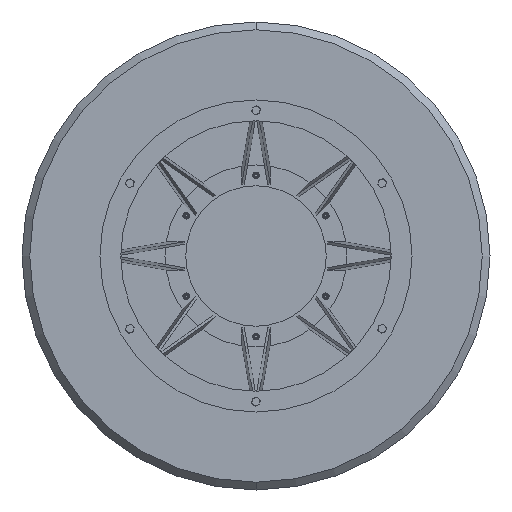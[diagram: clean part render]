
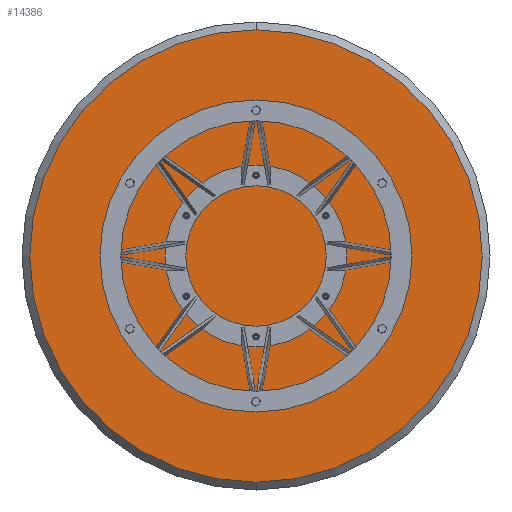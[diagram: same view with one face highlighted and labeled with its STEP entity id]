
A CAD part, front view. The second image highlights one B-rep face of the part: STEP entity #14386.
In plain terms, the highlighted planar face has unit normal (0, -1, 0).
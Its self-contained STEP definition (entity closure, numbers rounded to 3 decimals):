
#251 = EDGE_CURVE ( 'NONE', #4303, #13678, #5175, .T. ) ;
#264 = VERTEX_POINT ( 'NONE', #14561 ) ;
#362 = VERTEX_POINT ( 'NONE', #4470 ) ;
#475 = EDGE_CURVE ( 'NONE', #264, #13738, #3245, .T. ) ;
#630 = VERTEX_POINT ( 'NONE', #14034 ) ;
#871 = DIRECTION ( 'NONE',  ( 0., 0., -1. ) ) ;
#976 = AXIS2_PLACEMENT_3D ( 'NONE', #9940, #7528, #8630 ) ;
#1001 = DIRECTION ( 'NONE',  ( 0., -1., 0. ) ) ;
#1046 = AXIS2_PLACEMENT_3D ( 'NONE', #6543, #6460, #10503 ) ;
#1179 = EDGE_LOOP ( 'NONE', ( #3276, #9830 ) ) ;
#1286 = VERTEX_POINT ( 'NONE', #15716 ) ;
#1381 = CARTESIAN_POINT ( 'NONE',  ( 0., 0., 160. ) ) ;
#1454 = CARTESIAN_POINT ( 'NONE',  ( 134.234, 0., 77.5 ) ) ;
#1568 = VERTEX_POINT ( 'NONE', #1775 ) ;
#1679 = EDGE_LOOP ( 'NONE', ( #11823, #8889 ) ) ;
#1775 = CARTESIAN_POINT ( 'NONE',  ( -134.234, 0., -82.5 ) ) ;
#1911 = CIRCLE ( 'NONE', #14303, 5. ) ;
#2232 = DIRECTION ( 'NONE',  ( 0., -1., 0. ) ) ;
#2377 = CIRCLE ( 'NONE', #15027, 5. ) ;
#2509 = CARTESIAN_POINT ( 'NONE',  ( -134.234, 0., -77.5 ) ) ;
#2599 = ORIENTED_EDGE ( 'NONE', *, *, #10734, .F. ) ;
#2712 = EDGE_CURVE ( 'NONE', #13678, #4303, #4093, .T. ) ;
#2834 = DIRECTION ( 'NONE',  ( 0., -1., 0. ) ) ;
#2839 = AXIS2_PLACEMENT_3D ( 'NONE', #3525, #2232, #13732 ) ;
#2921 = AXIS2_PLACEMENT_3D ( 'NONE', #9928, #8619, #12603 ) ;
#3070 = EDGE_CURVE ( 'NONE', #630, #3395, #1911, .T. ) ;
#3195 = EDGE_LOOP ( 'NONE', ( #3295, #5802 ) ) ;
#3245 = CIRCLE ( 'NONE', #16769, 435. ) ;
#3255 = DIRECTION ( 'NONE',  ( 0., 0., 1. ) ) ;
#3276 = ORIENTED_EDGE ( 'NONE', *, *, #13713, .F. ) ;
#3295 = ORIENTED_EDGE ( 'NONE', *, *, #11552, .F. ) ;
#3316 = CARTESIAN_POINT ( 'NONE',  ( 0., 0., 155. ) ) ;
#3395 = VERTEX_POINT ( 'NONE', #3736 ) ;
#3525 = CARTESIAN_POINT ( 'NONE',  ( 0., 0., 155. ) ) ;
#3668 = DIRECTION ( 'NONE',  ( 0., 0., -1. ) ) ;
#3693 = FACE_BOUND ( 'NONE', #8015, .T. ) ;
#3700 = CIRCLE ( 'NONE', #16329, 5. ) ;
#3727 = CIRCLE ( 'NONE', #976, 5. ) ;
#3736 = CARTESIAN_POINT ( 'NONE',  ( 134.234, 0., 72.5 ) ) ;
#3940 = FACE_BOUND ( 'NONE', #13718, .T. ) ;
#4093 = CIRCLE ( 'NONE', #11567, 5. ) ;
#4303 = VERTEX_POINT ( 'NONE', #10703 ) ;
#4470 = CARTESIAN_POINT ( 'NONE',  ( -134.234, 0., 82.5 ) ) ;
#4711 = CARTESIAN_POINT ( 'NONE',  ( 134.234, 0., -77.5 ) ) ;
#4862 = CIRCLE ( 'NONE', #9825, 5. ) ;
#4875 = DIRECTION ( 'NONE',  ( 0., -1., 0. ) ) ;
#4958 = VERTEX_POINT ( 'NONE', #12552 ) ;
#5175 = CIRCLE ( 'NONE', #1046, 5. ) ;
#5297 = DIRECTION ( 'NONE',  ( 0., -1., 0. ) ) ;
#5489 = ORIENTED_EDGE ( 'NONE', *, *, #7330, .F. ) ;
#5661 = DIRECTION ( 'NONE',  ( 0., 0., -1. ) ) ;
#5802 = ORIENTED_EDGE ( 'NONE', *, *, #3070, .F. ) ;
#6144 = EDGE_CURVE ( 'NONE', #8983, #1568, #4862, .T. ) ;
#6335 = CARTESIAN_POINT ( 'NONE',  ( -134.234, 0., -72.5 ) ) ;
#6460 = DIRECTION ( 'NONE',  ( 0., -1., 0. ) ) ;
#6543 = CARTESIAN_POINT ( 'NONE',  ( 134.234, 0., -77.5 ) ) ;
#6689 = ORIENTED_EDGE ( 'NONE', *, *, #475, .T. ) ;
#6910 = CIRCLE ( 'NONE', #10479, 5. ) ;
#7330 = EDGE_CURVE ( 'NONE', #1568, #8983, #3727, .T. ) ;
#7528 = DIRECTION ( 'NONE',  ( 0., -1., 0. ) ) ;
#7580 = CARTESIAN_POINT ( 'NONE',  ( 134.234, 0., -72.5 ) ) ;
#7829 = FACE_OUTER_BOUND ( 'NONE', #16723, .T. ) ;
#7840 = AXIS2_PLACEMENT_3D ( 'NONE', #1454, #2834, #8191 ) ;
#7912 = DIRECTION ( 'NONE',  ( 0., 1., 0. ) ) ;
#8015 = EDGE_LOOP ( 'NONE', ( #5489, #10815 ) ) ;
#8191 = DIRECTION ( 'NONE',  ( 0., 0., -1. ) ) ;
#8308 = ORIENTED_EDGE ( 'NONE', *, *, #8922, .F. ) ;
#8619 = DIRECTION ( 'NONE',  ( 0., -1., 0. ) ) ;
#8630 = DIRECTION ( 'NONE',  ( 0., 0., -1. ) ) ;
#8652 = CARTESIAN_POINT ( 'NONE',  ( 0., 0., 0. ) ) ;
#8666 = EDGE_CURVE ( 'NONE', #13738, #264, #8940, .T. ) ;
#8675 = CIRCLE ( 'NONE', #2921, 5. ) ;
#8694 = VERTEX_POINT ( 'NONE', #12390 ) ;
#8889 = ORIENTED_EDGE ( 'NONE', *, *, #16399, .F. ) ;
#8922 = EDGE_CURVE ( 'NONE', #9408, #362, #2377, .T. ) ;
#8940 = CIRCLE ( 'NONE', #16420, 435. ) ;
#8983 = VERTEX_POINT ( 'NONE', #6335 ) ;
#9087 = CARTESIAN_POINT ( 'NONE',  ( 0., 0., -155. ) ) ;
#9408 = VERTEX_POINT ( 'NONE', #15944 ) ;
#9538 = DIRECTION ( 'NONE',  ( 0., -1., 0. ) ) ;
#9718 = DIRECTION ( 'NONE',  ( 0., 0., -1. ) ) ;
#9825 = AXIS2_PLACEMENT_3D ( 'NONE', #2509, #14234, #871 ) ;
#9830 = ORIENTED_EDGE ( 'NONE', *, *, #10098, .F. ) ;
#9928 = CARTESIAN_POINT ( 'NONE',  ( -134.234, 0., 77.5 ) ) ;
#9940 = CARTESIAN_POINT ( 'NONE',  ( -134.234, 0., -77.5 ) ) ;
#10098 = EDGE_CURVE ( 'NONE', #4958, #8694, #12263, .T. ) ;
#10139 = DIRECTION ( 'NONE',  ( 0., 0., 1. ) ) ;
#10251 = CARTESIAN_POINT ( 'NONE',  ( 0., 0., 0. ) ) ;
#10479 = AXIS2_PLACEMENT_3D ( 'NONE', #3316, #9538, #5661 ) ;
#10496 = FACE_BOUND ( 'NONE', #3195, .T. ) ;
#10503 = DIRECTION ( 'NONE',  ( 0., 0., -1. ) ) ;
#10671 = CARTESIAN_POINT ( 'NONE',  ( 0., 0., -435. ) ) ;
#10703 = CARTESIAN_POINT ( 'NONE',  ( 134.234, 0., -82.5 ) ) ;
#10734 = EDGE_CURVE ( 'NONE', #362, #9408, #8675, .T. ) ;
#10815 = ORIENTED_EDGE ( 'NONE', *, *, #6144, .F. ) ;
#11025 = DIRECTION ( 'NONE',  ( 0., -1., 0. ) ) ;
#11552 = EDGE_CURVE ( 'NONE', #3395, #630, #15257, .T. ) ;
#11567 = AXIS2_PLACEMENT_3D ( 'NONE', #4711, #11025, #9718 ) ;
#11710 = ORIENTED_EDGE ( 'NONE', *, *, #8666, .T. ) ;
#11787 = DIRECTION ( 'NONE',  ( 0., -1., 0. ) ) ;
#11823 = ORIENTED_EDGE ( 'NONE', *, *, #14279, .F. ) ;
#12263 = CIRCLE ( 'NONE', #15828, 5. ) ;
#12326 = DIRECTION ( 'NONE',  ( 0., -1., 0. ) ) ;
#12390 = CARTESIAN_POINT ( 'NONE',  ( 0., 0., -160. ) ) ;
#12484 = CARTESIAN_POINT ( 'NONE',  ( 0., 0., 0. ) ) ;
#12552 = CARTESIAN_POINT ( 'NONE',  ( 0., 0., -150. ) ) ;
#12603 = DIRECTION ( 'NONE',  ( 0., 0., -1. ) ) ;
#12768 = AXIS2_PLACEMENT_3D ( 'NONE', #10251, #7912, #14220 ) ;
#12938 = FACE_BOUND ( 'NONE', #1179, .T. ) ;
#12982 = VERTEX_POINT ( 'NONE', #1381 ) ;
#12999 = CARTESIAN_POINT ( 'NONE',  ( 134.234, 0., 77.5 ) ) ;
#13185 = DIRECTION ( 'NONE',  ( 0., 0., -1. ) ) ;
#13314 = CIRCLE ( 'NONE', #2839, 5. ) ;
#13678 = VERTEX_POINT ( 'NONE', #7580 ) ;
#13713 = EDGE_CURVE ( 'NONE', #8694, #4958, #3700, .T. ) ;
#13718 = EDGE_LOOP ( 'NONE', ( #8308, #2599 ) ) ;
#13732 = DIRECTION ( 'NONE',  ( 0., 0., -1. ) ) ;
#13738 = VERTEX_POINT ( 'NONE', #10671 ) ;
#14034 = CARTESIAN_POINT ( 'NONE',  ( 134.234, 0., 82.5 ) ) ;
#14069 = EDGE_LOOP ( 'NONE', ( #15664, #14937 ) ) ;
#14220 = DIRECTION ( 'NONE',  ( 0., 0., 1. ) ) ;
#14234 = DIRECTION ( 'NONE',  ( 0., -1., 0. ) ) ;
#14279 = EDGE_CURVE ( 'NONE', #1286, #12982, #13314, .T. ) ;
#14303 = AXIS2_PLACEMENT_3D ( 'NONE', #12999, #11787, #3668 ) ;
#14384 = FACE_BOUND ( 'NONE', #14069, .T. ) ;
#14386 = ADVANCED_FACE ( 'NONE', ( #15590, #3940, #3693, #10496, #14384, #12938, #7829 ), #15748, .F. ) ;
#14561 = CARTESIAN_POINT ( 'NONE',  ( 0., 0., 435. ) ) ;
#14937 = ORIENTED_EDGE ( 'NONE', *, *, #2712, .F. ) ;
#15027 = AXIS2_PLACEMENT_3D ( 'NONE', #15804, #1001, #15555 ) ;
#15257 = CIRCLE ( 'NONE', #7840, 5. ) ;
#15555 = DIRECTION ( 'NONE',  ( 0., 0., -1. ) ) ;
#15590 = FACE_BOUND ( 'NONE', #1679, .T. ) ;
#15664 = ORIENTED_EDGE ( 'NONE', *, *, #251, .F. ) ;
#15716 = CARTESIAN_POINT ( 'NONE',  ( 0., 0., 150. ) ) ;
#15748 = PLANE ( 'NONE',  #12768 ) ;
#15804 = CARTESIAN_POINT ( 'NONE',  ( -134.234, 0., 77.5 ) ) ;
#15806 = DIRECTION ( 'NONE',  ( 0., 0., -1. ) ) ;
#15828 = AXIS2_PLACEMENT_3D ( 'NONE', #9087, #5297, #15806 ) ;
#15925 = CARTESIAN_POINT ( 'NONE',  ( 0., 0., -155. ) ) ;
#15944 = CARTESIAN_POINT ( 'NONE',  ( -134.234, 0., 72.5 ) ) ;
#16008 = DIRECTION ( 'NONE',  ( 0., -1., 0. ) ) ;
#16329 = AXIS2_PLACEMENT_3D ( 'NONE', #15925, #16008, #13185 ) ;
#16399 = EDGE_CURVE ( 'NONE', #12982, #1286, #6910, .T. ) ;
#16420 = AXIS2_PLACEMENT_3D ( 'NONE', #8652, #4875, #10139 ) ;
#16723 = EDGE_LOOP ( 'NONE', ( #6689, #11710 ) ) ;
#16769 = AXIS2_PLACEMENT_3D ( 'NONE', #12484, #12326, #3255 ) ;
